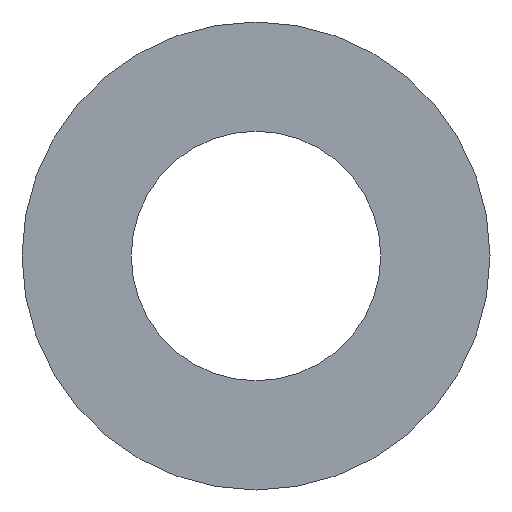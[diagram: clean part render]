
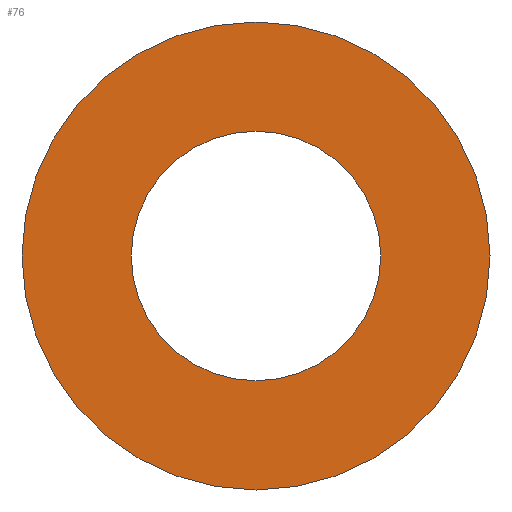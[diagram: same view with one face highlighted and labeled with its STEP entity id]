
A CAD part, front view. The second image highlights one B-rep face of the part: STEP entity #76.
In plain terms, the highlighted planar face has unit normal (0, -1, 0).
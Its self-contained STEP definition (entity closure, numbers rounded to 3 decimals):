
#7 = VERTEX_POINT ( 'NONE', #130 ) ;
#8 = AXIS2_PLACEMENT_3D ( 'NONE', #195, #176, #185 ) ;
#14 = ORIENTED_EDGE ( 'NONE', *, *, #82, .T. ) ;
#19 = DIRECTION ( 'NONE',  ( 0., 0., 1. ) ) ;
#27 = DIRECTION ( 'NONE',  ( 0., 1., 0. ) ) ;
#29 = CARTESIAN_POINT ( 'NONE',  ( 0., 0., 0. ) ) ;
#34 = FACE_BOUND ( 'NONE', #102, .T. ) ;
#35 = CARTESIAN_POINT ( 'NONE',  ( 0., 0., -3. ) ) ;
#50 = CIRCLE ( 'NONE', #75, 3. ) ;
#53 = EDGE_CURVE ( 'NONE', #137, #144, #187, .T. ) ;
#57 = CIRCLE ( 'NONE', #8, 1.6 ) ;
#60 = AXIS2_PLACEMENT_3D ( 'NONE', #29, #194, #192 ) ;
#64 = CARTESIAN_POINT ( 'NONE',  ( 0., 0., 3. ) ) ;
#68 = EDGE_CURVE ( 'NONE', #144, #137, #50, .T. ) ;
#75 = AXIS2_PLACEMENT_3D ( 'NONE', #96, #97, #95 ) ;
#76 = ADVANCED_FACE ( 'NONE', ( #213, #34 ), #98, .F. ) ;
#82 = EDGE_CURVE ( 'NONE', #126, #7, #151, .T. ) ;
#95 = DIRECTION ( 'NONE',  ( 0., 0., 1. ) ) ;
#96 = CARTESIAN_POINT ( 'NONE',  ( 0., 0., 0. ) ) ;
#97 = DIRECTION ( 'NONE',  ( 0., 1., 0. ) ) ;
#98 = PLANE ( 'NONE',  #157 ) ;
#99 = DIRECTION ( 'NONE',  ( 0., 1., 0. ) ) ;
#102 = EDGE_LOOP ( 'NONE', ( #14, #188 ) ) ;
#103 = DIRECTION ( 'NONE',  ( 0., 0., 1. ) ) ;
#105 = CARTESIAN_POINT ( 'NONE',  ( 0., 0., 0. ) ) ;
#106 = CARTESIAN_POINT ( 'NONE',  ( 0., 0., 0. ) ) ;
#109 = CARTESIAN_POINT ( 'NONE',  ( 0., 0., -1.6 ) ) ;
#120 = EDGE_LOOP ( 'NONE', ( #184, #167 ) ) ;
#126 = VERTEX_POINT ( 'NONE', #109 ) ;
#128 = EDGE_CURVE ( 'NONE', #7, #126, #57, .T. ) ;
#130 = CARTESIAN_POINT ( 'NONE',  ( 0., 0., 1.6 ) ) ;
#136 = AXIS2_PLACEMENT_3D ( 'NONE', #105, #99, #103 ) ;
#137 = VERTEX_POINT ( 'NONE', #64 ) ;
#144 = VERTEX_POINT ( 'NONE', #35 ) ;
#151 = CIRCLE ( 'NONE', #60, 1.6 ) ;
#157 = AXIS2_PLACEMENT_3D ( 'NONE', #106, #27, #19 ) ;
#167 = ORIENTED_EDGE ( 'NONE', *, *, #53, .F. ) ;
#176 = DIRECTION ( 'NONE',  ( 0., 1., 0. ) ) ;
#184 = ORIENTED_EDGE ( 'NONE', *, *, #68, .F. ) ;
#185 = DIRECTION ( 'NONE',  ( 0., 0., 1. ) ) ;
#187 = CIRCLE ( 'NONE', #136, 3. ) ;
#188 = ORIENTED_EDGE ( 'NONE', *, *, #128, .T. ) ;
#192 = DIRECTION ( 'NONE',  ( 0., 0., 1. ) ) ;
#194 = DIRECTION ( 'NONE',  ( 0., 1., 0. ) ) ;
#195 = CARTESIAN_POINT ( 'NONE',  ( 0., 0., 0. ) ) ;
#213 = FACE_OUTER_BOUND ( 'NONE', #120, .T. ) ;
